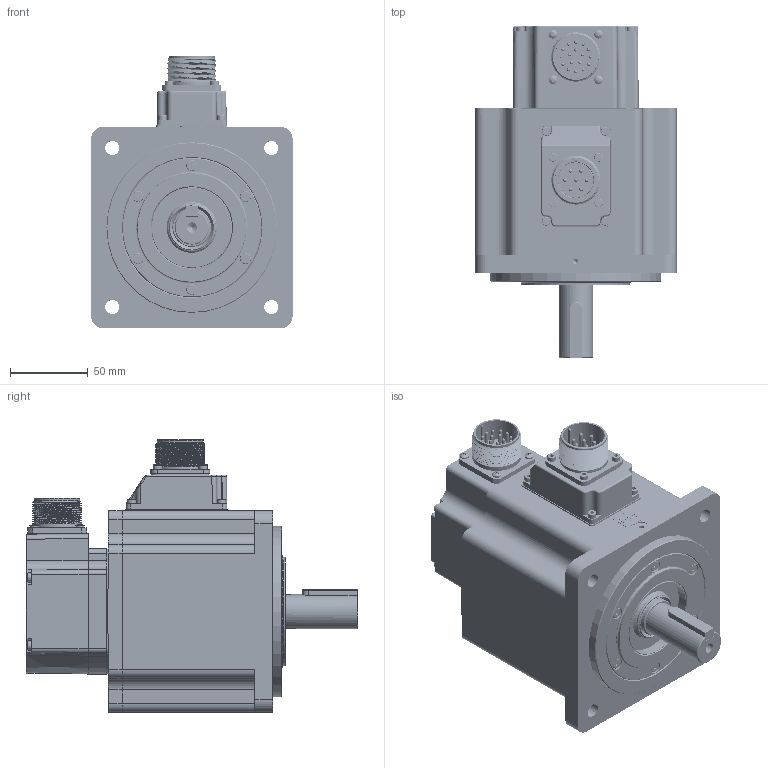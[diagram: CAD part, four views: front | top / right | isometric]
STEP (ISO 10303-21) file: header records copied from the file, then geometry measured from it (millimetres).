
FILE_DESCRIPTION(/* description */ ('AdapterTestApp'),/* implementation_level */ '2;1');
FILE_NAME(/* name */ 'TCE130 5A XX 3 A1 0 C3',/* time_stamp */ '2015-09-07T14:51:06+02:00',/* author */ ('AdapterTestApp'),/* organization */ ('Siemens PLM Software'),/* preprocessor_version */ 'ST-DEVELOPER v15.6',/* originating_system */ 'DEX',/* authorisation */ $);
FILE_SCHEMA (('AUTOMOTIVE_DESIGN {1 0 10303 214 3 1 1}'));
Products named in the file (34): TCE130 5A XX 3 A1 0 C3_vuoto; U5160001_vuoto; 003120002513; 003799000580; 003303000370; 003303000373; 005117001750; 005911000201; 005911000150; cap-M3 nudo; 005123001528; 005204000001; 005911000430; N0160019; 005123000600; 003103001509; 005008000690; 005911000203; back cover TCE100 + CN MIL; 001107000620; 005911000525; 003108015154; 003251022006; 005911003623; 005911000493; 005204000002; 005204000003; 005113002005; 005119000340; 003155002049; 003155002050; 005007000170; 005008000842; 005008000302
Assembly tree (63 placements, depth 3):
  TCE130 5A XX 3 A1 0 C3_vuoto
    U5160001_vuoto
      003120002513
      003799000580
      003303000370
      003303000373
      005117001750
      005911000201  x8
      005911000150
      cap-M3 nudo
    005123001528
    005204000001
    005911000430  x6
    N0160019
    005123000600
    003103001509
    005008000690  x2
    005911000203  x4
    back cover TCE100 + CN MIL
      001107000620
      003303000373
      005911000525  x4
      003108015154
    003251022006
    005911003623  x8
    005911000493  x4
    005204000002
    005204000003
    005113002005
    005119000340
    003155002049
    003155002050
    005007000170
    005008000842
    005008000302
Bounding box: 130.3 x 214 x 175.8 mm (x, y, z)
Volume: 925930.6 mm3; surface area: 364004.6 mm2
Topology: 76 solids, 86 shells, 3043 faces, 7520 edges, 4844 vertices
Faces by surface type: plane 1538, cylinder 733, extrusion 233, cone 167, torus 160, bspline 140, sphere 72
Full cylindrical faces by diameter (mm): 2 x34, 2.224 x1, 2.4 x8, 2.459 x23, 2.5 x1, 2.6 x1, 2.8 x7, 2.9 x4, 3 x30, 3.048 x4, 3.2 x5, 3.242 x24, 3.5 x15, 3.6 x1, 3.7 x8, 3.8 x2, 4 x23, 4.134 x16, 4.5 x10, 4.7 x11, 5 x8, 5.1 x1, 5.5 x35, 5.6 x4, 5.8 x6, 6.647 x2, 7 x10, 8 x10, 8.5 x8, 10 x1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
Entity records: 92936 total; most frequent: CARTESIAN_POINT 33428, ORIENTED_EDGE 11384, DIRECTION 11220, EDGE_CURVE 5692, VERTEX_POINT 4008, AXIS2_PLACEMENT_3D 3915, FACE_BOUND 3558, EDGE_LOOP 3504
